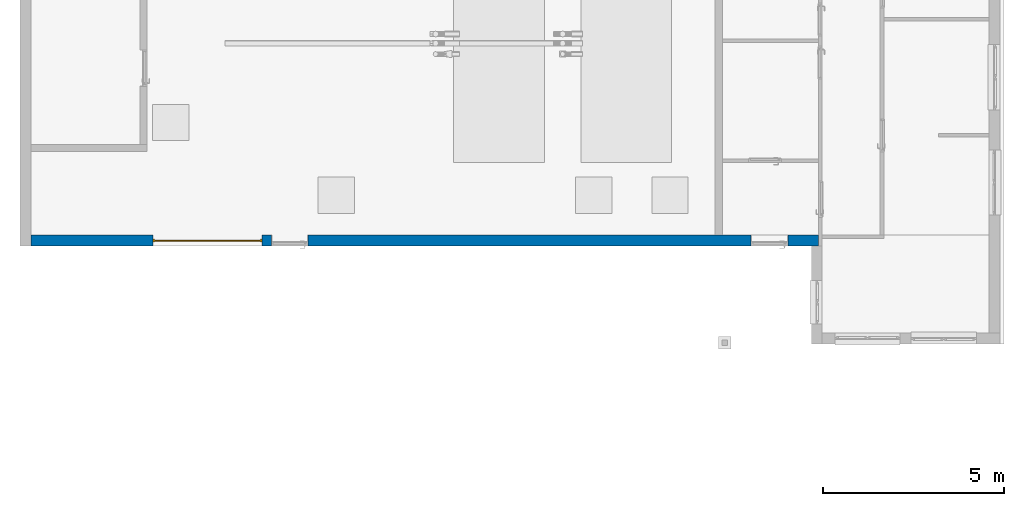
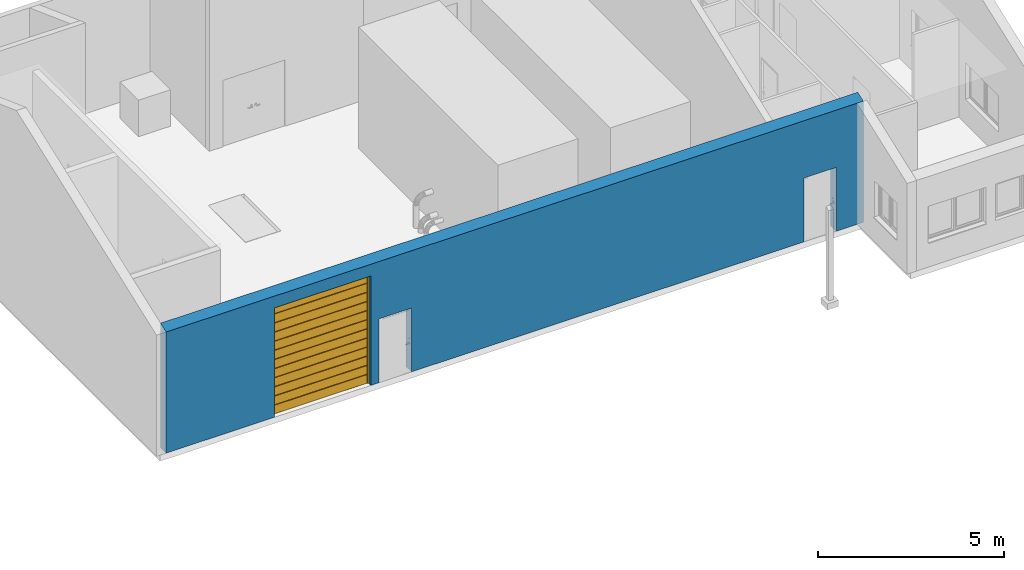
# One storey, part 2 of 23: 1 door, 1 wall, 3 openings.
"""IFC2X3 building model written with IfcOpenShell, lengths in millimetres."""

from ifc_helpers import new_model, entity, si_unit, converted_unit, direction, frame, frame_2d, origin, origin_2d_with_axis, place, context, subcontext, project, spatial, polyline, circle_curve, parameter, trimmed, segment, composite_curve, rectangle, outline, extrude, clip, bounded_halfspace, source, transform, mapped, material, material_list, layer, layer_set, layer_usage, type_object, type_shapes, element, fill, save


model = new_model("IFC2X3")

# Units and contexts
model_context = context("Model", 3, precision=0.01, world=origin(), true_north=direction((6.123031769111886e-17, 1.0)))
body_context = subcontext(model_context, "Body", "Model", "MODEL_VIEW")
ifc_project = project(units=[si_unit("LENGTHUNIT", "METRE", prefix="MILLI"), converted_unit("PLANEANGLEUNIT", "DEGREE", entity("IfcPlaneAngleMeasure", 0.017453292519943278), si_unit("PLANEANGLEUNIT", "RADIAN"), dimensions=[0, 0, 0, 0, 0, 0, 0]), si_unit("AREAUNIT", "SQUARE_METRE")], contexts=[model_context])

# Site, building, storey
site_placement = place(None, frame((7776.576483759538, 118.3519876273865, 0.0)))
site = spatial("IfcSite", under=ifc_project, at=site_placement, Name="Default", CompositionType="ELEMENT")
building_placement = place(site_placement, origin())
building = spatial("IfcBuilding", under=site, at=building_placement, Name="Bygning (endres i Project Information)", CompositionType="ELEMENT")
storey_placement = place(building_placement, frame((0.0, 0.0, 19000.0)))
storey = spatial("IfcBuildingStorey", under=building, at=storey_placement, Name="Plan 01", CompositionType="ELEMENT", Elevation=19000.0)

# Wall, openings, door
ifc_material_1 = material(Name="Default Wall")
ifc_layer = layer(ifc_material_1, 300.0)
ifc_layer_set = layer_set([ifc_layer], Name="Basic Wall:Generic - 300mm")
ifc_layer_usage = layer_usage(ifc_layer_set, "AXIS2", "NEGATIVE", 149.99999999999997)
wall_type = type_object("IfcWallType", Name="Basic Wall:Generic - 300mm", PredefinedType="STANDARD", material=ifc_layer_set)
wall_placement = place(storey_placement, frame((13174.001374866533, 19547.75730578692, 0.0)))
wall = element("IfcWallStandardCase", 1, at=wall_placement, inside=storey, type_object=wall_type, material=ifc_layer_usage, Name="Basic Wall:Generic - 300mm", ObjectType="Basic Wall:Generic - 300mm", context=body_context, shape_type="Clipping", body=[
    clip(extrude(rectangle(XDim=21700.000000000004, YDim=299.99999999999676, at=frame_2d((10850.000000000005, 2.5863755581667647e-12), x_axis=(1.0, 0.0))), origin(), (0.0, 0.0, 1.0), 4098.136645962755), bounded_halfspace(frame((0.0, -150.0, 3986.33540372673), z_axis=(0.0, -0.34920923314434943, 0.9370447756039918), x_axis=(1.0, 0.0, 0.0)), False, frame((0.0, -150.0, 3986.33540372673)), polyline([(0.0, 0.0), (21500.0, 0.0), (21700.0, 0.0), (21700.0, 300.0), (19050.0, 300.0), (18850.0, 300.0), (0.0, 300.0), (0.0, 0.0)]))),
])
opening_1_placement = place(wall_placement, frame((3370.0, -150.0, 0.0)))
opening_1 = element("IfcOpeningElement", 2, at=opening_1_placement, cuts=wall, Name="Garage dooor/gate:3000x3600mm 3:1", ObjectType="Opening", context=body_context, shape_type="SweptSolid", body=[
    extrude(rectangle(XDim=3600.0000000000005, YDim=2999.999999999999, at=frame_2d((1800.0000000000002, 1499.9999999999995), x_axis=(1.0, 0.0))), frame((0.0, 0.0, 0.0), z_axis=(0.0, 1.0, 0.0), x_axis=(0.0, 0.0, 1.0)), (0.0, 0.0, 1.0), 299.99999999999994),
])
opening_2_placement = place(wall_placement, frame((20855.0, 150.0, 0.0)))
element("IfcOpeningElement", 3, at=opening_2_placement, cuts=wall, Name="Single Door Simple:986 x 2089 mm - M10 x M21:1", ObjectType="Opening", context=body_context, shape_type="SweptSolid", body=[
    extrude(rectangle(XDim=2100.9999999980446, YDim=1009.9999999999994, at=frame_2d((1050.4999999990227, 504.9999999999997), x_axis=(1.0, 0.0))), frame((0.0, 0.0, 0.0), z_axis=(0.0, -1.0, 0.0), x_axis=(0.0, 0.0, 1.0)), (0.0, 0.0, 1.0), 299.99999999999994),
])
opening_3_placement = place(wall_placement, frame((7635.0, 150.0, 0.0)))
element("IfcOpeningElement", 4, at=opening_3_placement, cuts=wall, Name="Single Door Simple:986 x 2089 mm - M10 x M21:1", ObjectType="Opening", context=body_context, shape_type="SweptSolid", body=[
    extrude(rectangle(XDim=2100.9999999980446, YDim=1009.9999999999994, at=frame_2d((1050.4999999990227, 504.9999999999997), x_axis=(1.0, 0.0))), frame((0.0, 0.0, 0.0), z_axis=(0.0, -1.0, 0.0), x_axis=(0.0, 0.0, 1.0)), (0.0, 0.0, 1.0), 299.99999999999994),
])
ifc_material_2 = material(Name="Garage Door - Panel")
ifc_material_3 = material(Name="Garage Door - Jamb")
ifc_material_list = material_list([ifc_material_2, ifc_material_3])
door_style = type_object("IfcDoorStyle", Name="Garage dooor/gate:3000x3600mm 3", ConstructionType="NOTDEFINED", OperationType="NOTDEFINED", ParameterTakesPrecedence=False, Sizeable=False, material=ifc_material_list)
shared_shape = source(origin(), body_context, "Body", "SweptSolid", [
    extrude(outline(composite_curve([segment(trimmed(circle_curve(frame_2d((0.0, 125.0), x_axis=(1.0, 0.0)), 25.000000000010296), [parameter(36.86989764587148)], [parameter(143.13010235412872)], True, "PARAMETER"), True, "CONTINUOUS"), segment(polyline([(-20.0, 140.0), (-20.0, -140.0)]), True, "CONTINUOUS"), segment(trimmed(circle_curve(frame_2d((0.0, -125.0), x_axis=(1.0, 0.0)), 24.999999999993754), [parameter(216.8698976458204)], [parameter(323.1301023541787)], True, "PARAMETER"), True, "CONTINUOUS"), segment(polyline([(20.0, -140.0), (20.0, 140.0)]), True, "CONTINUOUS")], self_intersect=False)), frame((40.0, 150.0, 3150.0), z_axis=(1.0, 0.0, 0.0), x_axis=(0.0, 1.0, 0.0)), (0.0, 0.0, 1.0), 2919.9999999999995),
    extrude(outline(composite_curve([segment(trimmed(circle_curve(frame_2d((0.0, 125.0), x_axis=(1.0, 0.0)), 25.000000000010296), [parameter(36.86989764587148)], [parameter(143.13010235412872)], True, "PARAMETER"), True, "CONTINUOUS"), segment(polyline([(-20.0, 140.0), (-20.0, -140.0)]), True, "CONTINUOUS"), segment(trimmed(circle_curve(frame_2d((0.0, -125.0), x_axis=(1.0, 0.0)), 24.999999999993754), [parameter(216.8698976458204)], [parameter(323.1301023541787)], True, "PARAMETER"), True, "CONTINUOUS"), segment(polyline([(20.0, -140.0), (20.0, 140.0)]), True, "CONTINUOUS")], self_intersect=False)), frame((40.0, 150.0, 2850.0), z_axis=(1.0, 0.0, 0.0), x_axis=(0.0, 1.0, 0.0)), (0.0, 0.0, 1.0), 2919.9999999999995),
    extrude(outline(composite_curve([segment(trimmed(circle_curve(frame_2d((0.0, 125.0), x_axis=(1.0, 0.0)), 25.000000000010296), [parameter(36.86989764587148)], [parameter(143.13010235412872)], True, "PARAMETER"), True, "CONTINUOUS"), segment(polyline([(-20.0, 140.0), (-20.0, -140.0)]), True, "CONTINUOUS"), segment(trimmed(circle_curve(frame_2d((0.0, -125.0), x_axis=(1.0, 0.0)), 24.999999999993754), [parameter(216.8698976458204)], [parameter(323.1301023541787)], True, "PARAMETER"), True, "CONTINUOUS"), segment(polyline([(20.0, -140.0), (20.0, 140.0)]), True, "CONTINUOUS")], self_intersect=False)), frame((40.0, 150.0, 2550.0), z_axis=(1.0, 0.0, 0.0), x_axis=(0.0, 1.0, 0.0)), (0.0, 0.0, 1.0), 2919.9999999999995),
    extrude(outline(composite_curve([segment(trimmed(circle_curve(frame_2d((0.0, 125.0), x_axis=(1.0, 0.0)), 25.000000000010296), [parameter(36.86989764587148)], [parameter(143.13010235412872)], True, "PARAMETER"), True, "CONTINUOUS"), segment(polyline([(-20.0, 140.0), (-20.0, -140.0)]), True, "CONTINUOUS"), segment(trimmed(circle_curve(frame_2d((0.0, -125.0), x_axis=(1.0, 0.0)), 24.999999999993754), [parameter(216.8698976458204)], [parameter(323.1301023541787)], True, "PARAMETER"), True, "CONTINUOUS"), segment(polyline([(20.0, -140.0), (20.0, 140.0)]), True, "CONTINUOUS")], self_intersect=False)), frame((40.0, 150.0, 2250.0), z_axis=(1.0, 0.0, 0.0), x_axis=(0.0, 1.0, 0.0)), (0.0, 0.0, 1.0), 2919.9999999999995),
    extrude(outline(composite_curve([segment(trimmed(circle_curve(frame_2d((0.0, 125.0), x_axis=(1.0, 0.0)), 25.000000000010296), [parameter(36.86989764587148)], [parameter(143.13010235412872)], True, "PARAMETER"), True, "CONTINUOUS"), segment(polyline([(-20.0, 140.0), (-20.0, -140.0)]), True, "CONTINUOUS"), segment(trimmed(circle_curve(frame_2d((0.0, -125.0), x_axis=(1.0, 0.0)), 24.999999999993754), [parameter(216.8698976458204)], [parameter(323.1301023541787)], True, "PARAMETER"), True, "CONTINUOUS"), segment(polyline([(20.0, -140.0), (20.0, 140.0)]), True, "CONTINUOUS")], self_intersect=False)), frame((40.0, 150.0, 1950.0), z_axis=(1.0, 0.0, 0.0), x_axis=(0.0, 1.0, 0.0)), (0.0, 0.0, 1.0), 2919.9999999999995),
    extrude(outline(composite_curve([segment(trimmed(circle_curve(frame_2d((0.0, 125.0), x_axis=(1.0, 0.0)), 25.000000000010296), [parameter(36.86989764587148)], [parameter(143.13010235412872)], True, "PARAMETER"), True, "CONTINUOUS"), segment(polyline([(-20.0, 140.0), (-20.0, -140.0)]), True, "CONTINUOUS"), segment(trimmed(circle_curve(frame_2d((0.0, -125.0), x_axis=(1.0, 0.0)), 24.999999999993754), [parameter(216.8698976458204)], [parameter(323.1301023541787)], True, "PARAMETER"), True, "CONTINUOUS"), segment(polyline([(20.0, -140.0), (20.0, 140.0)]), True, "CONTINUOUS")], self_intersect=False)), frame((40.0, 150.0, 1650.0), z_axis=(1.0, 0.0, 0.0), x_axis=(0.0, 1.0, 0.0)), (0.0, 0.0, 1.0), 2919.9999999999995),
    extrude(outline(composite_curve([segment(trimmed(circle_curve(frame_2d((0.0, 125.0), x_axis=(1.0, 0.0)), 25.000000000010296), [parameter(36.86989764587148)], [parameter(143.13010235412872)], True, "PARAMETER"), True, "CONTINUOUS"), segment(polyline([(-20.0, 140.0), (-20.0, -140.0)]), True, "CONTINUOUS"), segment(trimmed(circle_curve(frame_2d((0.0, -125.0), x_axis=(1.0, 0.0)), 24.999999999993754), [parameter(216.8698976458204)], [parameter(323.1301023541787)], True, "PARAMETER"), True, "CONTINUOUS"), segment(polyline([(20.0, -140.0), (20.0, 140.0)]), True, "CONTINUOUS")], self_intersect=False)), frame((40.0, 150.0, 1350.0), z_axis=(1.0, 0.0, 0.0), x_axis=(0.0, 1.0, 0.0)), (0.0, 0.0, 1.0), 2919.9999999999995),
    extrude(outline(composite_curve([segment(trimmed(circle_curve(frame_2d((0.0, 125.0), x_axis=(1.0, 0.0)), 25.000000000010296), [parameter(36.86989764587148)], [parameter(143.13010235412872)], True, "PARAMETER"), True, "CONTINUOUS"), segment(polyline([(-20.0, 140.0), (-20.0, -140.0)]), True, "CONTINUOUS"), segment(trimmed(circle_curve(frame_2d((0.0, -125.0), x_axis=(1.0, 0.0)), 24.999999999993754), [parameter(216.8698976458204)], [parameter(323.1301023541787)], True, "PARAMETER"), True, "CONTINUOUS"), segment(polyline([(20.0, -140.0), (20.0, 140.0)]), True, "CONTINUOUS")], self_intersect=False)), frame((40.0, 150.0, 1050.0), z_axis=(1.0, 0.0, 0.0), x_axis=(0.0, 1.0, 0.0)), (0.0, 0.0, 1.0), 2919.9999999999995),
    extrude(outline(composite_curve([segment(trimmed(circle_curve(frame_2d((0.0, 125.0), x_axis=(1.0, 0.0)), 25.000000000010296), [parameter(36.86989764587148)], [parameter(143.13010235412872)], True, "PARAMETER"), True, "CONTINUOUS"), segment(polyline([(-20.0, 140.0), (-20.0, -140.0)]), True, "CONTINUOUS"), segment(trimmed(circle_curve(frame_2d((0.0, -125.0), x_axis=(1.0, 0.0)), 24.999999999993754), [parameter(216.8698976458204)], [parameter(323.1301023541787)], True, "PARAMETER"), True, "CONTINUOUS"), segment(polyline([(20.0, -140.0), (20.0, 140.0)]), True, "CONTINUOUS")], self_intersect=False)), frame((40.0, 150.0, 750.0), z_axis=(1.0, 0.0, 0.0), x_axis=(0.0, 1.0, 0.0)), (0.0, 0.0, 1.0), 2919.9999999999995),
    extrude(outline(composite_curve([segment(trimmed(circle_curve(frame_2d((0.0, 125.0), x_axis=(1.0, 0.0)), 25.000000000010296), [parameter(36.86989764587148)], [parameter(143.13010235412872)], True, "PARAMETER"), True, "CONTINUOUS"), segment(polyline([(-20.0, 140.0), (-20.0, -140.0)]), True, "CONTINUOUS"), segment(trimmed(circle_curve(frame_2d((0.0, -125.0), x_axis=(1.0, 0.0)), 24.999999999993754), [parameter(216.8698976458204)], [parameter(323.1301023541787)], True, "PARAMETER"), True, "CONTINUOUS"), segment(polyline([(20.0, -140.0), (20.0, 140.0)]), True, "CONTINUOUS")], self_intersect=False)), frame((40.0, 150.0, 450.0), z_axis=(1.0, 0.0, 0.0), x_axis=(0.0, 1.0, 0.0)), (0.0, 0.0, 1.0), 2919.9999999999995),
    extrude(outline(composite_curve([segment(trimmed(circle_curve(frame_2d((0.0, 125.0), x_axis=(1.0, 0.0)), 25.000000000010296), [parameter(36.86989764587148)], [parameter(143.13010235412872)], True, "PARAMETER"), True, "CONTINUOUS"), segment(polyline([(-20.0, 140.0), (-20.0, -140.0)]), True, "CONTINUOUS"), segment(trimmed(circle_curve(frame_2d((0.0, -125.0), x_axis=(1.0, 0.0)), 24.999999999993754), [parameter(216.8698976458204)], [parameter(323.1301023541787)], True, "PARAMETER"), True, "CONTINUOUS"), segment(polyline([(20.0, -140.0), (20.0, 140.0)]), True, "CONTINUOUS")], self_intersect=False)), frame((40.0, 150.0, 3450.0), z_axis=(1.0, 0.0, 0.0), x_axis=(0.0, 1.0, 0.0)), (0.0, 0.0, 1.0), 2919.9999999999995),
    extrude(outline(composite_curve([segment(trimmed(circle_curve(frame_2d((0.0, 125.0), x_axis=(1.0, 0.0)), 25.000000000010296), [parameter(36.86989764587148)], [parameter(143.13010235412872)], True, "PARAMETER"), True, "CONTINUOUS"), segment(polyline([(-20.0, 140.0), (-20.0, -140.0)]), True, "CONTINUOUS"), segment(trimmed(circle_curve(frame_2d((0.0, -125.0), x_axis=(1.0, 0.0)), 24.999999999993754), [parameter(216.8698976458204)], [parameter(323.1301023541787)], True, "PARAMETER"), True, "CONTINUOUS"), segment(polyline([(20.0, -140.0), (20.0, 140.0)]), True, "CONTINUOUS")], self_intersect=False)), frame((40.0, 150.0, 150.0), z_axis=(1.0, 0.0, 0.0), x_axis=(0.0, 1.0, 0.0)), (0.0, 0.0, 1.0), 2919.9999999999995),
    extrude(rectangle(XDim=80.00000000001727, YDim=39.999999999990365, at=origin_2d_with_axis()), frame((2980.0, 150.0, 0.0), z_axis=(0.0, 0.0, 1.0), x_axis=(0.0, 1.0, 0.0)), (0.0, 0.0, 1.0), 3600.0000000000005),
    extrude(rectangle(XDim=80.00000000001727, YDim=40.00000000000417, at=frame_2d((0.0, -1.3500311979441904e-13), x_axis=(1.0, 0.0))), frame((20.0, 150.0, 0.0), z_axis=(0.0, 0.0, 1.0), x_axis=(0.0, 1.0, 0.0)), (0.0, 0.0, 1.0), 3600.0000000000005),
])
type_shapes(door_style, [shared_shape])
door_placement = place(opening_1_placement, origin())
door = element("IfcDoor", 5, at=door_placement, inside=storey, type_object=door_style, material=ifc_material_list, Name="Garage dooor/gate:3000x3600mm 3", ObjectType="Garage dooor/gate:3000x3600mm 3", OverallHeight=3600.0000000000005, OverallWidth=3000.0, context=body_context, shape_type="MappedRepresentation", body=[
    mapped(shared_shape, transform((0.0, 0.0, 0.0), scale=1.0)),
])
fill(opening_1, door)

save(model, "model.ifc")
